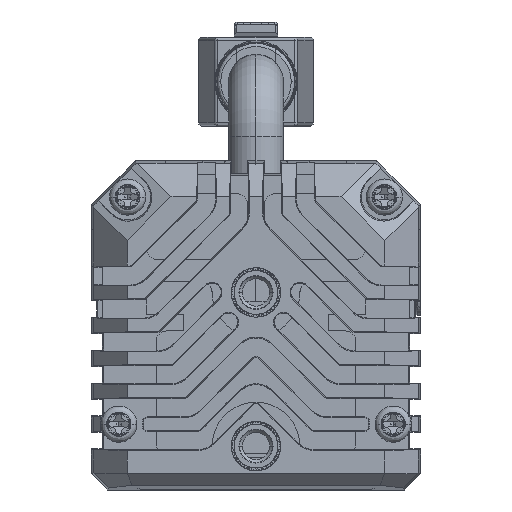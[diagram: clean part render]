
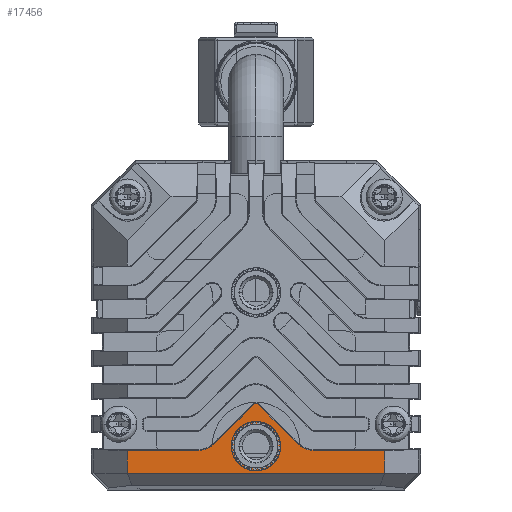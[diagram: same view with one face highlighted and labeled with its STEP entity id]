
A CAD part, left-side view. The second image highlights one B-rep face of the part: STEP entity #17456.
In plain terms, the highlighted planar face has unit normal (-1, 0, 0) as drawn and (1, 0, 0) by its records, which use the part's own axes.
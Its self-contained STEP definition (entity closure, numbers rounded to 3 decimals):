
#10364=CARTESIAN_POINT('',(5.,0.,7.527));
#10365=DIRECTION('',(1.,0.,0.));
#10366=DIRECTION('',(0.,0.707,0.707));
#10367=AXIS2_PLACEMENT_3D('',#10364,#10365,#10366);
#10373=DIRECTION('',(0.,0.707,-0.707));
#10374=VECTOR('',#10373,5.013);
#10375=CARTESIAN_POINT('',(5.,0.242,7.769));
#10376=LINE('',#10375,#10374);
#10380=DIRECTION('',(0.,-1.,0.));
#10381=VECTOR('',#10380,6.438);
#10382=CARTESIAN_POINT('',(5.,11.75,3.593));
#10383=LINE('',#10382,#10381);
#10387=DIRECTION('',(0.,0.,1.));
#10388=VECTOR('',#10387,2.093);
#10389=CARTESIAN_POINT('',(5.,11.75,1.5));
#10390=LINE('',#10389,#10388);
#10394=DIRECTION('',(0.,1.,0.));
#10395=VECTOR('',#10394,23.5);
#10396=CARTESIAN_POINT('',(5.,-11.75,1.5));
#10397=LINE('',#10396,#10395);
#10401=DIRECTION('',(0.,0.,-1.));
#10402=VECTOR('',#10401,2.093);
#10403=CARTESIAN_POINT('',(5.,-11.75,3.593));
#10404=LINE('',#10403,#10402);
#10408=DIRECTION('',(0.,1.,0.));
#10409=VECTOR('',#10408,6.438);
#10410=CARTESIAN_POINT('',(5.,-11.75,3.593));
#10411=LINE('',#10410,#10409);
#10415=DIRECTION('',(0.,0.707,0.707));
#10416=VECTOR('',#10415,5.013);
#10417=CARTESIAN_POINT('',(5.,-3.787,4.225));
#10418=LINE('',#10417,#10416);
#10422=CARTESIAN_POINT('',(5.,0.,4.));
#10423=DIRECTION('',(1.,0.,0.));
#10424=DIRECTION('',(0.,1.,0.));
#10425=AXIS2_PLACEMENT_3D('',#10422,#10423,#10424);
#10430=CARTESIAN_POINT('',(5.,0.,4.));
#10431=DIRECTION('',(1.,0.,0.));
#10432=DIRECTION('',(0.,-1.,0.));
#10433=AXIS2_PLACEMENT_3D('',#10430,#10431,#10432);
#11159=CARTESIAN_POINT('',(5.,-5.312,5.75));
#11160=DIRECTION('',(-1.,0.,0.));
#11161=DIRECTION('',(0.,0.707,-0.707));
#11162=AXIS2_PLACEMENT_3D('',#11159,#11160,#11161);
#14678=CARTESIAN_POINT('',(5.,5.312,5.75));
#14679=DIRECTION('',(-1.,0.,0.));
#14680=DIRECTION('',(0.,0.,-1.));
#14681=AXIS2_PLACEMENT_3D('',#14678,#14679,#14680);
#16351=CARTESIAN_POINT('',(5.,2.,4.));
#16352=CARTESIAN_POINT('',(5.,-2.,4.));
#16353=VERTEX_POINT('',#16351);
#16354=VERTEX_POINT('',#16352);
#16355=CARTESIAN_POINT('',(5.,-11.75,1.5));
#16356=CARTESIAN_POINT('',(5.,11.75,1.5));
#16357=VERTEX_POINT('',#16355);
#16358=VERTEX_POINT('',#16356);
#16457=CARTESIAN_POINT('',(5.,5.312,3.593));
#16458=VERTEX_POINT('',#16457);
#16459=CARTESIAN_POINT('',(5.,3.787,4.225));
#16460=VERTEX_POINT('',#16459);
#16465=CARTESIAN_POINT('',(5.,-3.787,4.225));
#16466=VERTEX_POINT('',#16465);
#16467=CARTESIAN_POINT('',(5.,-5.312,3.593));
#16468=VERTEX_POINT('',#16467);
#16545=CARTESIAN_POINT('',(5.,-11.75,3.593));
#16546=VERTEX_POINT('',#16545);
#16547=CARTESIAN_POINT('',(5.,11.75,3.593));
#16548=VERTEX_POINT('',#16547);
#16565=CARTESIAN_POINT('',(5.,0.242,7.769));
#16566=CARTESIAN_POINT('',(5.,-0.242,7.769));
#16567=VERTEX_POINT('',#16565);
#16568=VERTEX_POINT('',#16566);
#17423=CARTESIAN_POINT('',(5.,0.,0.));
#17424=DIRECTION('',(1.,0.,0.));
#17425=DIRECTION('',(0.,1.,0.));
#17426=AXIS2_PLACEMENT_3D('',#17423,#17424,#17425);
#17427=PLANE('',#17426);
#17429=ORIENTED_EDGE('',*,*,#17428,.F.);
#17431=ORIENTED_EDGE('',*,*,#17430,.T.);
#17433=ORIENTED_EDGE('',*,*,#17432,.F.);
#17435=ORIENTED_EDGE('',*,*,#17434,.F.);
#17437=ORIENTED_EDGE('',*,*,#17436,.F.);
#17439=ORIENTED_EDGE('',*,*,#17438,.F.);
#17441=ORIENTED_EDGE('',*,*,#17440,.F.);
#17443=ORIENTED_EDGE('',*,*,#17442,.T.);
#17445=ORIENTED_EDGE('',*,*,#17444,.F.);
#17447=ORIENTED_EDGE('',*,*,#17446,.T.);
#17448=EDGE_LOOP('',(#17429,#17431,#17433,#17435,#17437,#17439,#17441,#17443,
#17445,#17447));
#17449=FACE_OUTER_BOUND('',#17448,.F.);
#17451=ORIENTED_EDGE('',*,*,#17450,.T.);
#17453=ORIENTED_EDGE('',*,*,#17452,.T.);
#17454=EDGE_LOOP('',(#17451,#17453));
#17455=FACE_BOUND('',#17454,.F.);
#10368=CIRCLE('',#10367,0.343);
#10426=CIRCLE('',#10425,2.);
#10434=CIRCLE('',#10433,2.);
#11163=CIRCLE('',#11162,2.157);
#14682=CIRCLE('',#14681,2.157);
#17428=EDGE_CURVE('',#16567,#16568,#10368,.T.);
#17430=EDGE_CURVE('',#16567,#16460,#10376,.T.);
#17432=EDGE_CURVE('',#16458,#16460,#14682,.T.);
#17434=EDGE_CURVE('',#16548,#16458,#10383,.T.);
#17436=EDGE_CURVE('',#16358,#16548,#10390,.T.);
#17438=EDGE_CURVE('',#16357,#16358,#10397,.T.);
#17440=EDGE_CURVE('',#16546,#16357,#10404,.T.);
#17442=EDGE_CURVE('',#16546,#16468,#10411,.T.);
#17444=EDGE_CURVE('',#16466,#16468,#11163,.T.);
#17446=EDGE_CURVE('',#16466,#16568,#10418,.T.);
#17450=EDGE_CURVE('',#16353,#16354,#10426,.T.);
#17452=EDGE_CURVE('',#16354,#16353,#10434,.T.);
#17456=ADVANCED_FACE('',(#17449,#17455),#17427,.T.);
